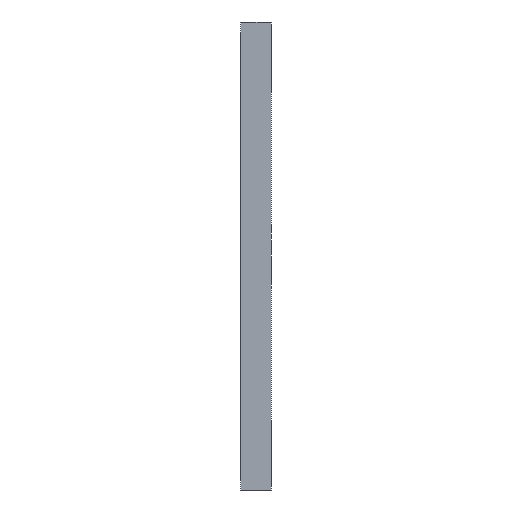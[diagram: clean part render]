
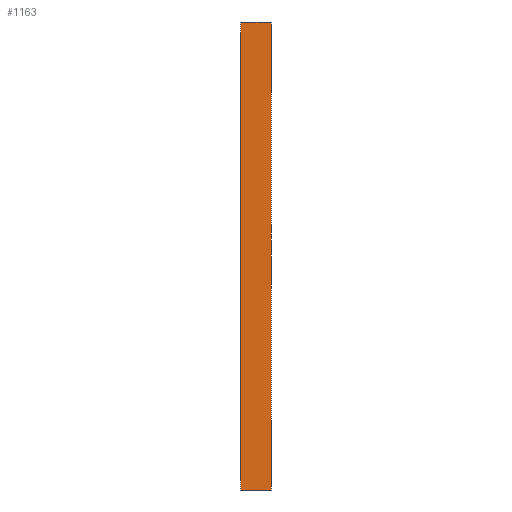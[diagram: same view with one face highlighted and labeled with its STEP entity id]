
A CAD part, left-side view. The second image highlights one B-rep face of the part: STEP entity #1163.
In plain terms, the highlighted planar face has unit normal (-1, 0, 0).
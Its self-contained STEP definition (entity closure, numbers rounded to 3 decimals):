
#29 = EDGE_LOOP ( 'NONE', ( #46, #667, #1270, #870 ) ) ;
#36 = VERTEX_POINT ( 'NONE', #1260 ) ;
#46 = ORIENTED_EDGE ( 'NONE', *, *, #994, .T. ) ;
#107 = LINE ( 'NONE', #1154, #798 ) ;
#113 = DIRECTION ( 'NONE',  ( 1., 0., 0. ) ) ;
#172 = VERTEX_POINT ( 'NONE', #1231 ) ;
#215 = PLANE ( 'NONE',  #1105 ) ;
#231 = DIRECTION ( 'NONE',  ( 0., -1., 0. ) ) ;
#256 = LINE ( 'NONE', #1179, #1267 ) ;
#269 = DIRECTION ( 'NONE',  ( 0., 0., -1. ) ) ;
#286 = EDGE_CURVE ( 'NONE', #955, #36, #1201, .T. ) ;
#311 = VERTEX_POINT ( 'NONE', #877 ) ;
#336 = CARTESIAN_POINT ( 'NONE',  ( -183., 24., 183. ) ) ;
#386 = DIRECTION ( 'NONE',  ( 0., 0., 1. ) ) ;
#416 = CARTESIAN_POINT ( 'NONE',  ( -183., 24., -183. ) ) ;
#451 = EDGE_CURVE ( 'NONE', #36, #172, #456, .T. ) ;
#456 = LINE ( 'NONE', #336, #886 ) ;
#506 = DIRECTION ( 'NONE',  ( 0., 0., 1. ) ) ;
#667 = ORIENTED_EDGE ( 'NONE', *, *, #451, .F. ) ;
#775 = CARTESIAN_POINT ( 'NONE',  ( -183., 24., -183. ) ) ;
#798 = VECTOR ( 'NONE', #978, 1000. ) ;
#834 = FACE_OUTER_BOUND ( 'NONE', #29, .T. ) ;
#870 = ORIENTED_EDGE ( 'NONE', *, *, #944, .T. ) ;
#877 = CARTESIAN_POINT ( 'NONE',  ( -183., 0., -183. ) ) ;
#886 = VECTOR ( 'NONE', #231, 1000. ) ;
#944 = EDGE_CURVE ( 'NONE', #955, #311, #107, .T. ) ;
#955 = VERTEX_POINT ( 'NONE', #775 ) ;
#978 = DIRECTION ( 'NONE',  ( 0., -1., 0. ) ) ;
#982 = CARTESIAN_POINT ( 'NONE',  ( -183., 24., -183. ) ) ;
#994 = EDGE_CURVE ( 'NONE', #311, #172, #256, .T. ) ;
#1105 = AXIS2_PLACEMENT_3D ( 'NONE', #416, #113, #269 ) ;
#1154 = CARTESIAN_POINT ( 'NONE',  ( -183., 24., -183. ) ) ;
#1163 = ADVANCED_FACE ( 'NONE', ( #834 ), #215, .F. ) ;
#1179 = CARTESIAN_POINT ( 'NONE',  ( -183., 0., -183. ) ) ;
#1201 = LINE ( 'NONE', #982, #1217 ) ;
#1217 = VECTOR ( 'NONE', #506, 1000. ) ;
#1231 = CARTESIAN_POINT ( 'NONE',  ( -183., 0., 183. ) ) ;
#1260 = CARTESIAN_POINT ( 'NONE',  ( -183., 24., 183. ) ) ;
#1267 = VECTOR ( 'NONE', #386, 1000. ) ;
#1270 = ORIENTED_EDGE ( 'NONE', *, *, #286, .F. ) ;
